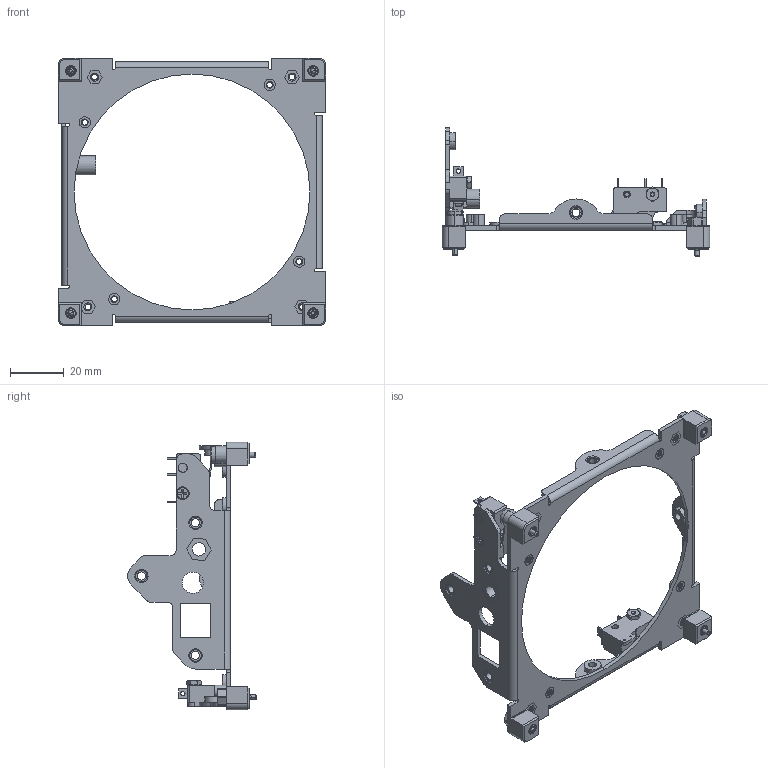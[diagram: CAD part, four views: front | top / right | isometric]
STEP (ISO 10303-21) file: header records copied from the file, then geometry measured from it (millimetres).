
FILE_DESCRIPTION (( 'STEP AP214' ), '1' );
FILE_NAME ('710-00960-A0 Base Plate, ANTS, Dual Switch.STEP', '2019-12-23T19:57:41', ( '' ), ( '' ), 'SwSTEP 2.0', 'SolidWorks 2014', '' );
FILE_SCHEMA (( 'AUTOMOTIVE_DESIGN' ));
Length unit declared in the file: inch
Products named in the file (2): 710-00960-A0 Base Plate, ANTS, Dual Switch
Bounding box: 100 x 47.94 x 100 mm (x, y, z)
Volume: 14802.9 mm3; surface area: 19793.6 mm2
Topology: 1 solids, 45 shells, 1791 faces, 4312 edges, 2585 vertices
Faces by surface type: cone 794, plane 489, cylinder 484, torus 18, sphere 6
Entity records: 55892 total; most frequent: DIRECTION 9725, CARTESIAN_POINT 9134, ORIENTED_EDGE 8616, EDGE_CURVE 4308, AXIS2_PLACEMENT_3D 3722, VERTEX_POINT 2585, LINE 2281, VECTOR 2281
